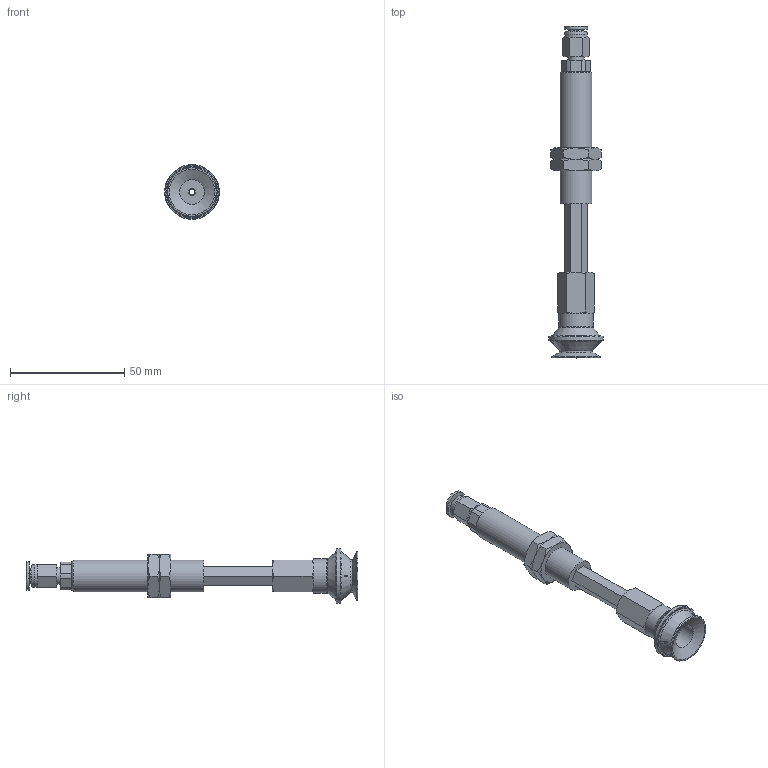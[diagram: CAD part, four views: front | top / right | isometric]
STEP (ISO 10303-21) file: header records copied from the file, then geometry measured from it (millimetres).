
FILE_DESCRIPTION(('STEP AP203'),'1');
FILE_NAME('-O.stp','2025-08-27T01:00:25',(' '),(' '),'Spatial InterOp 3D',' ',' ');
FILE_SCHEMA(('CONFIG_CONTROL_DESIGN'));
Length unit declared in the file: millimetre
Products named in the file (8): BNABPBTH-20-30-※-O; ADAPTER; NAPBTH-20-30-MBODY; Adapter20-T-NAPB; Nut-20-S-PB; NAPBTH-20-30-FBODY; BPBG-20-※; PC-C_06-M5
Assembly tree (8 placements, depth 2):
  BNABPBTH-20-30-※-O
    ADAPTER
    NAPBTH-20-30-MBODY
    Adapter20-T-NAPB
    Nut-20-S-PB  x2
    NAPBTH-20-30-FBODY
    BPBG-20-※
    PC-C_06-M5
Bounding box: 24 x 145.48 x 24 mm (x, y, z)
Volume: 18872.4 mm3; surface area: 15518.9 mm2
Topology: 7 solids, 10 shells, 200 faces, 434 edges, 266 vertices
Faces by surface type: plane 86, cone 67, cylinder 29, torus 11, bspline 4, revolution 3
Full cylindrical faces by diameter (mm): 2.5 x1, 3 x2, 4 x2, 4.134 x2, 4.6 x1, 5 x2, 7 x1, 7.4 x1, 8.2 x1, 10 x1, 10.8 x1, 11 x1, 12.917 x2, 14 x1, 15 x1, 24 x1
Entity records: 5374 total; most frequent: CARTESIAN_POINT 1427, DIRECTION 741, ORIENTED_EDGE 654, EDGE_CURVE 329, AXIS2_PLACEMENT_3D 309, EDGE_LOOP 250, VERTEX_POINT 227, FACE_OUTER_BOUND 146
